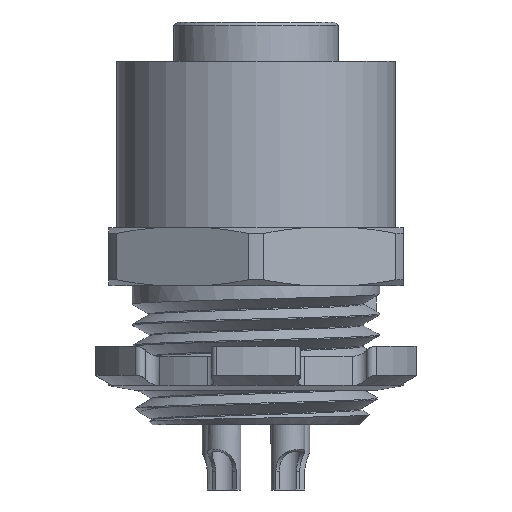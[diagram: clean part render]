
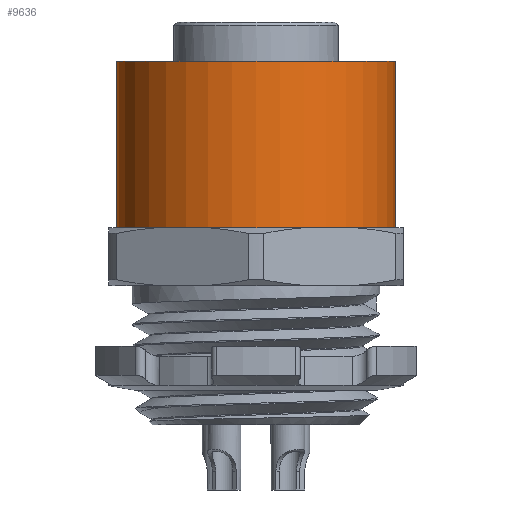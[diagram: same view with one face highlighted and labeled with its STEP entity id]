
A CAD part, front view. The second image highlights one B-rep face of the part: STEP entity #9636.
In plain terms, the highlighted cylindrical face has radius 12 mm (diameter 24 mm), a full revolution.
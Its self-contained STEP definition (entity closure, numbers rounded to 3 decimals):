
#737 = EDGE_CURVE ( 'NONE', #9023, #9023, #7916, .T. ) ;
#2012 = DIRECTION ( 'NONE',  ( 0., 0., 1. ) ) ;
#2232 = EDGE_CURVE ( 'NONE', #6835, #6835, #7273, .T. ) ;
#3185 = ORIENTED_EDGE ( 'NONE', *, *, #2232, .F. ) ;
#3403 = FACE_OUTER_BOUND ( 'NONE', #4223, .T. ) ;
#3802 = DIRECTION ( 'NONE',  ( 0., 0., 1. ) ) ;
#3810 = AXIS2_PLACEMENT_3D ( 'NONE', #10236, #3802, #9516 ) ;
#4223 = EDGE_LOOP ( 'NONE', ( #7327 ) ) ;
#4419 = DIRECTION ( 'NONE',  ( 1., 0., 0. ) ) ;
#4949 = DIRECTION ( 'NONE',  ( 0., 0., 1. ) ) ;
#5408 = EDGE_LOOP ( 'NONE', ( #3185 ) ) ;
#5435 = CARTESIAN_POINT ( 'NONE',  ( 12., 0., -17.7 ) ) ;
#5963 = CYLINDRICAL_SURFACE ( 'NONE', #8113, 12. ) ;
#6351 = CARTESIAN_POINT ( 'NONE',  ( 12., 0., -3.4 ) ) ;
#6835 = VERTEX_POINT ( 'NONE', #6351 ) ;
#6915 = CARTESIAN_POINT ( 'NONE',  ( 0., 0., -3.4 ) ) ;
#7273 = CIRCLE ( 'NONE', #3810, 12. ) ;
#7327 = ORIENTED_EDGE ( 'NONE', *, *, #737, .T. ) ;
#7731 = FACE_OUTER_BOUND ( 'NONE', #5408, .T. ) ;
#7916 = CIRCLE ( 'NONE', #8085, 12. ) ;
#8085 = AXIS2_PLACEMENT_3D ( 'NONE', #9873, #4949, #9146 ) ;
#8113 = AXIS2_PLACEMENT_3D ( 'NONE', #6915, #2012, #4419 ) ;
#9023 = VERTEX_POINT ( 'NONE', #5435 ) ;
#9146 = DIRECTION ( 'NONE',  ( 1., 0., 0. ) ) ;
#9516 = DIRECTION ( 'NONE',  ( 1., 0., 0. ) ) ;
#9636 = ADVANCED_FACE ( 'NONE', ( #7731, #3403 ), #5963, .T. ) ;
#9873 = CARTESIAN_POINT ( 'NONE',  ( 0., 0., -17.7 ) ) ;
#10236 = CARTESIAN_POINT ( 'NONE',  ( 0., 0., -3.4 ) ) ;
